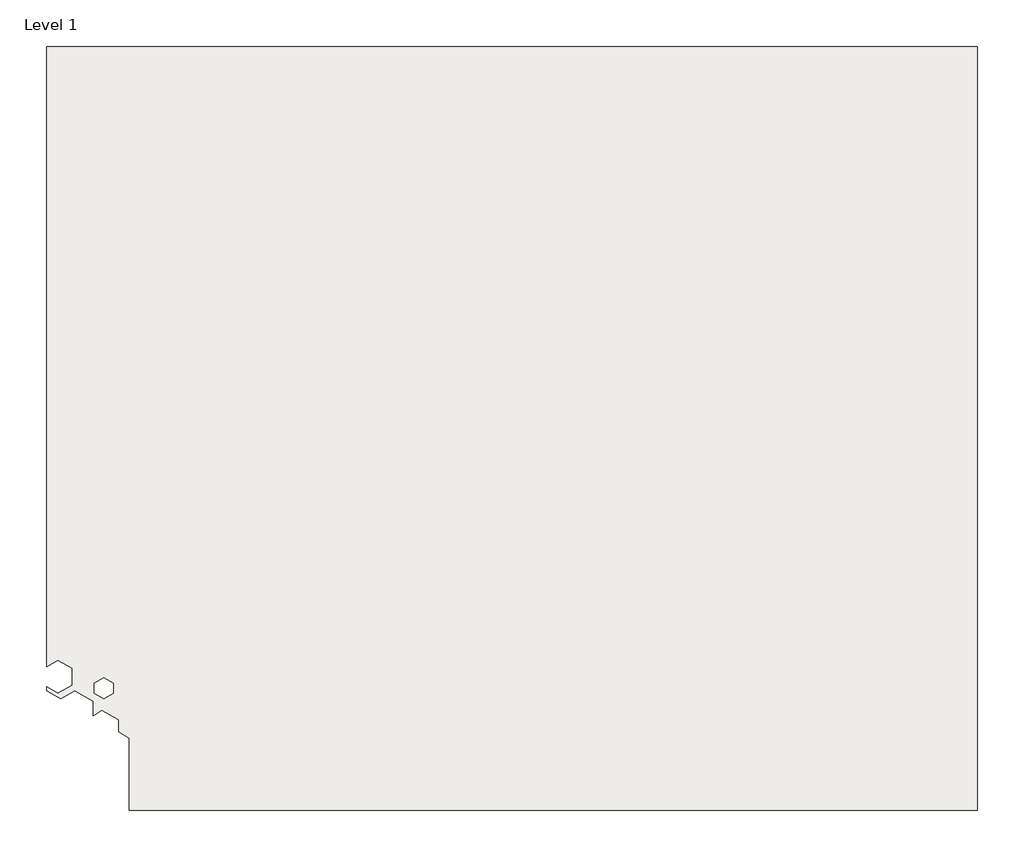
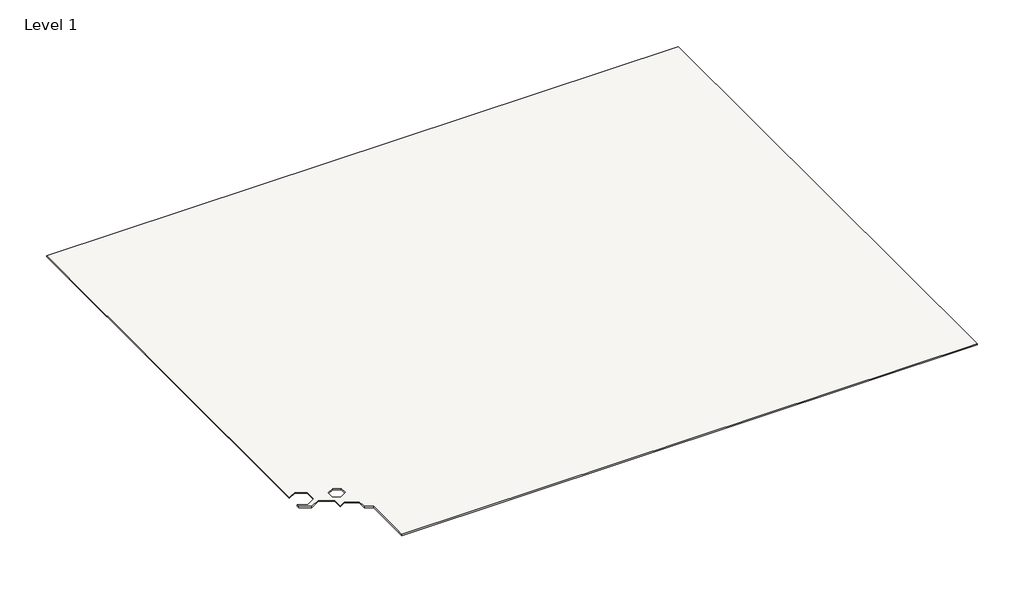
# One storey: 1 covering.
"""IFC4 building model written with IfcOpenShell, lengths in millimetres."""

from ifc_helpers import new_model, si_unit, frame, origin, place, context, project, spatial, polyline, outline, extrude, element, save

model = new_model("IFC4")

# Units and contexts
model_context = context("Model", 3, world=origin())
ifc_project = project(units=[si_unit("LENGTHUNIT", "METRE", prefix="MILLI")], contexts=[model_context])

# Site, building, storey
site = spatial("IfcSite", under=ifc_project)
building = spatial("IfcBuilding", under=site)
storey = spatial("IfcBuildingStorey", under=building, Name="Level 1", Elevation=2600.0)

# Covering
placement = place(None, origin())
element("IfcCovering", 1, ObjectType="Cemintel SoffitLine 6mm x 1200mm x 3600mm", at=placement, inside=storey, context=model_context, shape_type="SweptSolid", body=[
    extrude(outline(polyline([(334760.7369529, 1303.1444811), (334760.7369529, -1196.8555189), (331983.5260811, -1196.8555189), (331983.5260811, -960.9815933), (331948.8850649, -940.9815933), (331948.8850649, -901.8707494), (331894.2360407, -870.3191206), (331864.9674006, -887.2173778), (331864.9674006, -840.5791481), (331805.7363961, -806.3821117), (331759.7318706, -832.9428369), (331712.7369529, -805.8103085), (331712.7369529, -792.7920671), (331749.7498883, -814.1614953), (331796.1020433, -787.4000661), (331796.1020433, -732.2284328), (331749.7498883, -705.4670036), (331712.7369529, -726.8364318), (331712.7369529, 1303.1444811), (334760.7369529, 1303.1444811)]), holes=[polyline([(331930.6612024, -781.1383062), (331899.8563251, -763.353102), (331869.0514478, -781.1383062), (331869.0514478, -813.746101), (331899.8563251, -831.5313052), (331930.6612024, -813.746101), (331930.6612024, -781.1383062)])]), frame((0.0, 0.0, 2600.0), z_axis=(0.0, 0.0, 1.0), x_axis=(1.0, 0.0, 0.0)), (0.0, 0.0, 1.0), 6.0),
])

save(model, "model.ifc")
